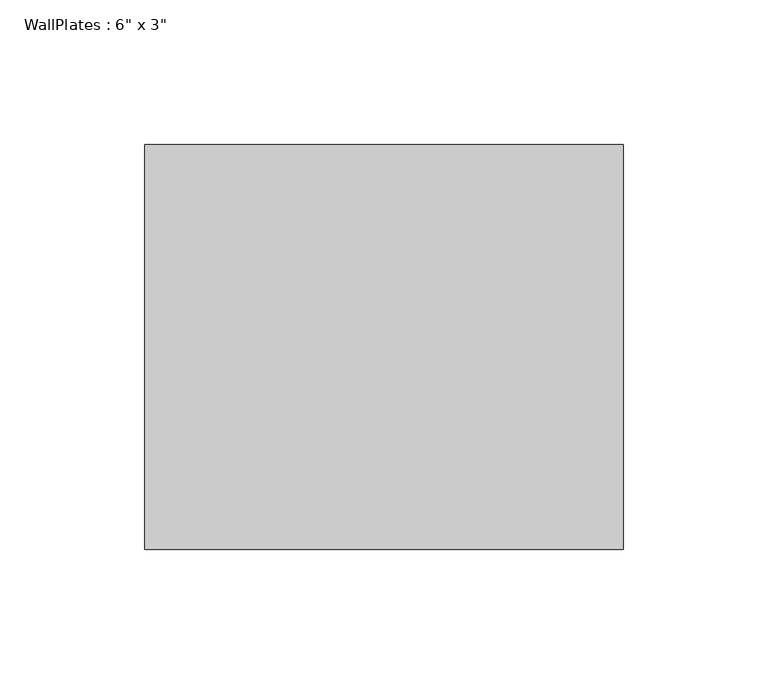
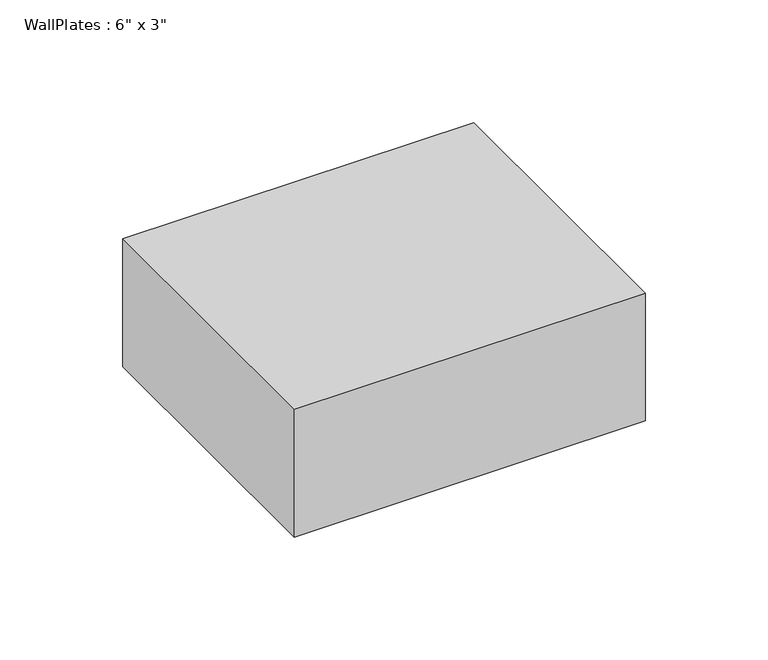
"""IFC4 building model written with IfcOpenShell, lengths in millimetres: beam geometry."""

import ifcopenshell
import ifcopenshell.guid

model = None  # the IFC model being written
_history = None  # IfcOwnerHistory: only IFC2X3 demands one
_inside = {}  # id of a spatial element -> (the spatial element, [elements in it])
_under = {}  # id of a project, library or spatial element -> (it, [spatial elements below it])
_declared = {}  # id of a project -> (the project, [libraries it declares])
_typed = {}  # id of a type object -> (the type object, [elements of that type])
_made_of = {}  # id of a material, layer set ... -> (it, [elements and type objects made of it])


def new_model(schema):
    """Start an empty IFC model of exactly this schema.

    Asked for "IFC4X3", IfcOpenShell would pick the latest addendum, in which some entities
    have other attributes; the version numbers below select the first issue.
    IFC2X3 requires an IfcOwnerHistory on every rooted entity: one is made here for all.
    """
    global model, _history
    if schema == "IFC4X3":
        model = ifcopenshell.file(schema_version=(4, 3, 0, 0))
    else:
        model = ifcopenshell.file(schema=schema)
    _inside.clear()
    _under.clear()
    _declared.clear()
    _typed.clear()
    _made_of.clear()
    _history = None
    if model.schema == "IFC2X3":
        org = make("IfcOrganization", Name="unknown")
        user = make(
            "IfcPersonAndOrganization",
            ThePerson=make("IfcPerson", FamilyName="unknown"),
            TheOrganization=org,
        )
        app = make(
            "IfcApplication",
            ApplicationDeveloper=org,
            Version="unknown",
            ApplicationFullName="unknown",
            ApplicationIdentifier="unknown",
        )
        _history = make(
            "IfcOwnerHistory",
            OwningUser=user,
            OwningApplication=app,
            ChangeAction="ADDED",
            CreationDate=0,
        )
    return model


def make(cls, **values):
    """One entity of the class cls with the attributes given. An attribute that is None is left unset."""
    return model.create_entity(
        cls, **{name: value for name, value in values.items() if value is not None}
    )


def rooted(cls, **values):
    """An entity with a GlobalId (a new one), such as an element, a storey or a relation."""
    return make(cls, GlobalId=ifcopenshell.guid.new(), OwnerHistory=_history, **values)


def si_unit(unit_type, name, prefix=None):
    """IfcSIUnit, for example si_unit("LENGTHUNIT", "METRE", prefix="MILLI")."""
    return make("IfcSIUnit", UnitType=unit_type, Prefix=prefix, Name=name)


def assignment(units):
    """IfcUnitAssignment: the units of a project."""
    return None if units is None else make("IfcUnitAssignment", Units=units)


def point(xyz):
    """IfcCartesianPoint."""
    return None if xyz is None else make("IfcCartesianPoint", Coordinates=xyz)


def direction(xyz):
    """IfcDirection."""
    return None if xyz is None else make("IfcDirection", DirectionRatios=xyz)


def frame(location, z_axis=None, x_axis=None):
    """IfcAxis2Placement3D, a coordinate frame: its origin and axes. An axis left out is left unset."""
    return make(
        "IfcAxis2Placement3D",
        Location=point(location),
        Axis=direction(z_axis),
        RefDirection=direction(x_axis),
    )


def origin():
    """The frame at (0, 0, 0) with its axes left unset."""
    return frame((0.0, 0.0, 0.0))


def place(relative_to, where):
    """IfcLocalPlacement: puts the frame where relative to a parent placement (None: the world)."""
    return make(
        "IfcLocalPlacement", PlacementRelTo=relative_to, RelativePlacement=where
    )


def context(
    kind, dimensions, precision=None, world=None, true_north=None, identifier=None
):
    """IfcGeometricRepresentationContext, for example the 3D "Model" context."""
    return make(
        "IfcGeometricRepresentationContext",
        ContextIdentifier=identifier,
        ContextType=kind,
        CoordinateSpaceDimension=dimensions,
        Precision=precision,
        WorldCoordinateSystem=world,
        TrueNorth=true_north,
    )


def project(units=None, contexts=None):
    """IfcProject with its units and contexts."""
    return rooted(
        "IfcProject",
        Name="project",
        RepresentationContexts=contexts,
        UnitsInContext=assignment(units),
    )


def spatial(cls, under=None, at=None, **own):
    """A site, building, storey or space (cls), placed at a placement, below another one or the project."""
    s = rooted(cls, ObjectPlacement=at, **own)
    if under is not None:
        _under.setdefault(under.id(), (under, []))[1].append(s)
    return s


def polyline(points):
    """IfcPolyline through the points."""
    return make("IfcPolyline", Points=[point(p) for p in points])


def outline(outer, holes=None, kind="AREA"):
    """IfcArbitraryClosedProfileDef: a profile drawn as a closed curve; with holes, ...WithVoids."""
    if holes is None:
        return make("IfcArbitraryClosedProfileDef", ProfileType=kind, OuterCurve=outer)
    return make(
        "IfcArbitraryProfileDefWithVoids",
        ProfileType=kind,
        OuterCurve=outer,
        InnerCurves=holes,
    )


def extrude(swept, where, along, depth):
    """IfcExtrudedAreaSolid: the profile swept, set in the frame where, extruded along a direction by depth."""
    return make(
        "IfcExtrudedAreaSolid",
        SweptArea=swept,
        Position=where,
        ExtrudedDirection=direction(along),
        Depth=depth,
    )


def shape(context_of_items, identifier, shape_type, items):
    """IfcShapeRepresentation: the items that make up one representation, for example the "Body"."""
    return make(
        "IfcShapeRepresentation",
        ContextOfItems=context_of_items,
        RepresentationIdentifier=identifier,
        RepresentationType=shape_type,
        Items=items,
    )


def source(mapping_origin, context_of_items, identifier, shape_type, items):
    """IfcRepresentationMap: a shape defined once, which mapped items show again and again."""
    return make(
        "IfcRepresentationMap",
        MappingOrigin=mapping_origin,
        MappedRepresentation=shape(context_of_items, identifier, shape_type, items),
    )


def transform(
    local_origin,
    x_axis=None,
    y_axis=None,
    z_axis=None,
    scale=None,
    scale2=None,
    scale3=None,
    uniform=True,
):
    """IfcCartesianTransformationOperator3D, or its non-uniform kind. x_axis, y_axis, z_axis: its Axis1, 2, 3."""
    if uniform:
        return make(
            "IfcCartesianTransformationOperator3D",
            Axis1=direction(x_axis),
            Axis2=direction(y_axis),
            LocalOrigin=point(local_origin),
            Scale=scale,
            Axis3=direction(z_axis),
        )
    return make(
        "IfcCartesianTransformationOperator3DnonUniform",
        Axis1=direction(x_axis),
        Axis2=direction(y_axis),
        LocalOrigin=point(local_origin),
        Scale=scale,
        Axis3=direction(z_axis),
        Scale2=scale2,
        Scale3=scale3,
    )


def mapped(mapping_source, mapping_target):
    """IfcMappedItem: shows the shape of a source again, moved by a transform."""
    return make(
        "IfcMappedItem", MappingSource=mapping_source, MappingTarget=mapping_target
    )


def made_of(thing, what):
    """Note that an element or type object is made of a material, layer set ...; save() writes the relation."""
    if what is not None:
        _made_of.setdefault(what.id(), (what, []))[1].append(thing)
    return thing


def element(
    cls,
    number,
    at=None,
    inside=None,
    cuts=None,
    type_object=None,
    material=None,
    context=None,
    identifier="Body",
    shape_type=None,
    held_by="IfcProductDefinitionShape",
    body=None,
    shapes=None,
    **own,
):
    """One element of the class cls, such as IfcWall. Its Tag is "e" and its number.

    at: its placement. inside: the storey or other place that contains it. cuts: it is an
    opening in that element (IfcRelVoidsElement). A single representation is given by context,
    identifier, shape_type and body (its items); several are given by shapes. held_by: the class
    of the entity that holds the representations. save() writes the other relations.
    """
    e = rooted(cls, Tag="e%d" % number, ObjectPlacement=at, **own)
    if body is not None:
        shapes = [shape(context, identifier, shape_type, body)]
    if shapes is not None:
        e.Representation = make(held_by, Representations=shapes)
    if inside is not None:
        _inside.setdefault(inside.id(), (inside, []))[1].append(e)
    if cuts is not None:
        rooted(
            "IfcRelVoidsElement", RelatingBuildingElement=cuts, RelatedOpeningElement=e
        )
    if type_object is not None:
        _typed.setdefault(type_object.id(), (type_object, []))[1].append(e)
    return made_of(e, material)


def aggregate(whole, parts):
    """IfcRelAggregates: a whole, such as a stair, and the parts it consists of."""
    return rooted("IfcRelAggregates", RelatingObject=whole, RelatedObjects=parts)


def save(model, path):
    """Write the relations noted so far, then the file.

    IfcRelAggregates (storeys below a building ...), IfcRelContainedInSpatialStructure (elements
    in a storey), IfcRelDefinesByType, IfcRelAssociatesMaterial and IfcRelDeclares: one each for
    every whole, place, type object, material and project.
    """
    for whole, parts in _under.values():
        aggregate(whole, parts)
    for where, things in _inside.values():
        rooted(
            "IfcRelContainedInSpatialStructure",
            RelatedElements=things,
            RelatingStructure=where,
        )
    for kind, things in _typed.values():
        rooted("IfcRelDefinesByType", RelatedObjects=things, RelatingType=kind)
    for what, things in _made_of.values():
        rooted("IfcRelAssociatesMaterial", RelatedObjects=things, RelatingMaterial=what)
    for by, libraries in _declared.values():
        rooted("IfcRelDeclares", RelatingContext=by, RelatedDefinitions=libraries)
    model.write(path)


def beam_0c42ba8b(model_context):
    return source(origin(), model_context, "Body", "SweptSolid", [
        extrude(outline(polyline([(-82.565, -69.85), (-82.565, 69.85), (82.565, 69.85), (82.565, -69.85), (-82.565, -69.85)])), frame((0.0, 0.0, -31.75), z_axis=(0.0, 0.0, 1.0), x_axis=(1.0, 0.0, 0.0)), (0.0, 0.0, 1.0), 63.5),
    ])


if __name__ == "__main__":
    model = new_model("IFC4")
    model_context = context("Model", 3, world=origin())
    ifc_project = project(units=[si_unit("LENGTHUNIT", "METRE", prefix="MILLI")], contexts=[model_context])
    site = spatial("IfcSite", under=ifc_project)
    building = spatial("IfcBuilding", under=site)
    placement = place(None, origin())
    beam_shape = beam_0c42ba8b(model_context)
    element("IfcBeam", 1, ObjectType="WallPlates : 6\" x 3\"", at=placement, inside=building, context=model_context, shape_type="MappedRepresentation", body=[
        mapped(beam_shape, transform((0.0, 0.0, 0.0), x_axis=(1.0, 0.0, 0.0), y_axis=(0.0, 1.0, 0.0), z_axis=(0.0, 0.0, 1.0))),
    ])
    save(model, "model.ifc")
